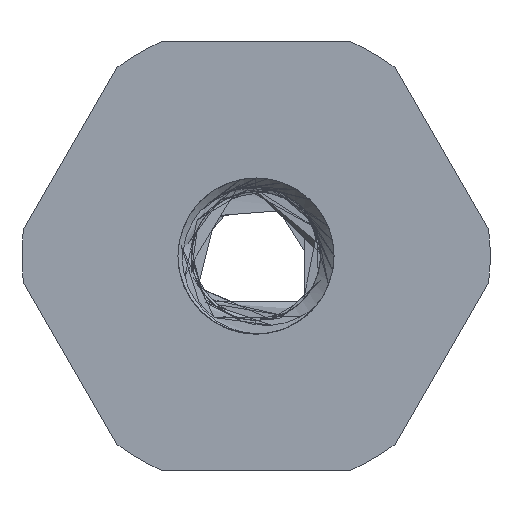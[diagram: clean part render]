
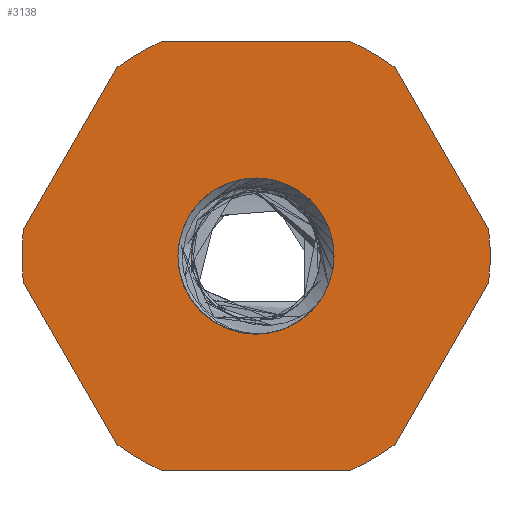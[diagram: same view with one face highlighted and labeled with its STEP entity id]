
A CAD part, front view. The second image highlights one B-rep face of the part: STEP entity #3138.
In plain terms, the highlighted planar face has unit normal (0, -1, 0).
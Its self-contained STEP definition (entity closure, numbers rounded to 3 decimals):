
#46 = VECTOR ( 'NONE', #6752, 1000. ) ;
#163 = CARTESIAN_POINT ( 'NONE',  ( 0., 0., -2. ) ) ;
#273 = DIRECTION ( 'NONE',  ( 0., 0., 1. ) ) ;
#355 = EDGE_CURVE ( 'NONE', #10574, #6095, #1039, .T. ) ;
#448 = CARTESIAN_POINT ( 'NONE',  ( 5.962, 0., 0.673 ) ) ;
#490 = CARTESIAN_POINT ( 'NONE',  ( -5.962, 0., 0.673 ) ) ;
#637 = EDGE_CURVE ( 'NONE', #1205, #4209, #5770, .T. ) ;
#647 = EDGE_CURVE ( 'NONE', #5701, #10574, #12279, .T. ) ;
#652 = ORIENTED_EDGE ( 'NONE', *, *, #2360, .F. ) ;
#680 = ORIENTED_EDGE ( 'NONE', *, *, #2428, .F. ) ;
#719 = VERTEX_POINT ( 'NONE', #6832 ) ;
#866 = CARTESIAN_POINT ( 'NONE',  ( 0., 0., 2. ) ) ;
#1039 = LINE ( 'NONE', #9866, #8047 ) ;
#1099 = LINE ( 'NONE', #9708, #2603 ) ;
#1144 = DIRECTION ( 'NONE',  ( 0., 0., 1. ) ) ;
#1184 = CARTESIAN_POINT ( 'NONE',  ( 0., 0., 0. ) ) ;
#1205 = VERTEX_POINT ( 'NONE', #866 ) ;
#1244 = ORIENTED_EDGE ( 'NONE', *, *, #637, .T. ) ;
#1266 = DIRECTION ( 'NONE',  ( 0., 1., 0. ) ) ;
#1343 = EDGE_CURVE ( 'NONE', #11026, #6611, #7389, .T. ) ;
#1391 = DIRECTION ( 'NONE',  ( -0.5, 0., -0.866 ) ) ;
#1836 = AXIS2_PLACEMENT_3D ( 'NONE', #9389, #11297, #5647 ) ;
#1892 = ORIENTED_EDGE ( 'NONE', *, *, #7066, .F. ) ;
#2003 = CARTESIAN_POINT ( 'NONE',  ( 0., 0., 5.5 ) ) ;
#2360 = EDGE_CURVE ( 'NONE', #11136, #719, #6198, .T. ) ;
#2373 = CARTESIAN_POINT ( 'NONE',  ( 0., 0., 0. ) ) ;
#2410 = DIRECTION ( 'NONE',  ( 0., 0., 1. ) ) ;
#2428 = EDGE_CURVE ( 'NONE', #2630, #5630, #12100, .T. ) ;
#2558 = ORIENTED_EDGE ( 'NONE', *, *, #10446, .T. ) ;
#2583 = AXIS2_PLACEMENT_3D ( 'NONE', #3303, #1266, #7930 ) ;
#2603 = VECTOR ( 'NONE', #4007, 1000. ) ;
#2630 = VERTEX_POINT ( 'NONE', #3518 ) ;
#2693 = CARTESIAN_POINT ( 'NONE',  ( 4.763, 0., 2.75 ) ) ;
#3032 = EDGE_CURVE ( 'NONE', #5630, #11136, #11400, .T. ) ;
#3065 = VERTEX_POINT ( 'NONE', #5645 ) ;
#3138 = ADVANCED_FACE ( 'NONE', ( #4137, #8596 ), #7560, .F. ) ;
#3162 = CARTESIAN_POINT ( 'NONE',  ( 0., 0., -5.5 ) ) ;
#3185 = DIRECTION ( 'NONE',  ( 0., 1., 0. ) ) ;
#3197 = ORIENTED_EDGE ( 'NONE', *, *, #355, .F. ) ;
#3271 = AXIS2_PLACEMENT_3D ( 'NONE', #9713, #3185, #4140 ) ;
#3303 = CARTESIAN_POINT ( 'NONE',  ( 0., 0., 0. ) ) ;
#3333 = EDGE_CURVE ( 'NONE', #719, #3065, #12121, .T. ) ;
#3423 = CARTESIAN_POINT ( 'NONE',  ( 0., 0., 0. ) ) ;
#3518 = CARTESIAN_POINT ( 'NONE',  ( 5.962, 0., -0.673 ) ) ;
#3702 = AXIS2_PLACEMENT_3D ( 'NONE', #3944, #4729, #11363 ) ;
#3706 = EDGE_CURVE ( 'NONE', #6989, #2630, #6800, .T. ) ;
#3944 = CARTESIAN_POINT ( 'NONE',  ( 0., 0., 0. ) ) ;
#4007 = DIRECTION ( 'NONE',  ( -0.5, 0., 0.866 ) ) ;
#4064 = ORIENTED_EDGE ( 'NONE', *, *, #3706, .F. ) ;
#4117 = DIRECTION ( 'NONE',  ( -1., 0., 0. ) ) ;
#4130 = CARTESIAN_POINT ( 'NONE',  ( -3.564, 0., 4.827 ) ) ;
#4137 = FACE_BOUND ( 'NONE', #9798, .T. ) ;
#4140 = DIRECTION ( 'NONE',  ( 0., 0., 1. ) ) ;
#4150 = ORIENTED_EDGE ( 'NONE', *, *, #4526, .F. ) ;
#4209 = VERTEX_POINT ( 'NONE', #8379 ) ;
#4210 = LINE ( 'NONE', #2693, #7809 ) ;
#4436 = VERTEX_POINT ( 'NONE', #5767 ) ;
#4526 = EDGE_CURVE ( 'NONE', #3065, #5701, #1099, .T. ) ;
#4729 = DIRECTION ( 'NONE',  ( 0., 1., 0. ) ) ;
#4974 = CARTESIAN_POINT ( 'NONE',  ( 2.398, 0., 5.5 ) ) ;
#4998 = CARTESIAN_POINT ( 'NONE',  ( 0.239, 0., -1.986 ) ) ;
#5141 = CARTESIAN_POINT ( 'NONE',  ( 4.763, 0., -2.75 ) ) ;
#5150 = DIRECTION ( 'NONE',  ( 0.5, 0., 0.866 ) ) ;
#5194 = DIRECTION ( 'NONE',  ( 0., 1., 0. ) ) ;
#5275 = ORIENTED_EDGE ( 'NONE', *, *, #11422, .F. ) ;
#5329 = ORIENTED_EDGE ( 'NONE', *, *, #9563, .T. ) ;
#5406 = CARTESIAN_POINT ( 'NONE',  ( -5.962, 0., -0.673 ) ) ;
#5630 = VERTEX_POINT ( 'NONE', #8159 ) ;
#5645 = CARTESIAN_POINT ( 'NONE',  ( -3.564, 0., -4.827 ) ) ;
#5647 = DIRECTION ( 'NONE',  ( 0., 0., 1. ) ) ;
#5701 = VERTEX_POINT ( 'NONE', #5406 ) ;
#5757 = VECTOR ( 'NONE', #4117, 1000. ) ;
#5767 = CARTESIAN_POINT ( 'NONE',  ( 3.564, 0., 4.827 ) ) ;
#5770 = CIRCLE ( 'NONE', #3702, 2. ) ;
#5913 = DIRECTION ( 'NONE',  ( 0., 0., 1. ) ) ;
#5995 = CARTESIAN_POINT ( 'NONE',  ( 0., 0., 0. ) ) ;
#6095 = VERTEX_POINT ( 'NONE', #4130 ) ;
#6198 = LINE ( 'NONE', #3162, #5757 ) ;
#6306 = EDGE_CURVE ( 'NONE', #4436, #6989, #4210, .T. ) ;
#6344 = AXIS2_PLACEMENT_3D ( 'NONE', #3423, #11031, #11957 ) ;
#6548 = ORIENTED_EDGE ( 'NONE', *, *, #6306, .F. ) ;
#6559 = DIRECTION ( 'NONE',  ( 0., 0., 1. ) ) ;
#6611 = VERTEX_POINT ( 'NONE', #163 ) ;
#6671 = AXIS2_PLACEMENT_3D ( 'NONE', #5995, #11702, #1144 ) ;
#6752 = DIRECTION ( 'NONE',  ( 1., 0., 0. ) ) ;
#6800 = CIRCLE ( 'NONE', #11981, 6. ) ;
#6832 = CARTESIAN_POINT ( 'NONE',  ( -2.398, 0., -5.5 ) ) ;
#6963 = ORIENTED_EDGE ( 'NONE', *, *, #3333, .F. ) ;
#6981 = CARTESIAN_POINT ( 'NONE',  ( 2.398, 0., -5.5 ) ) ;
#6989 = VERTEX_POINT ( 'NONE', #448 ) ;
#7066 = EDGE_CURVE ( 'NONE', #6095, #8441, #11924, .T. ) ;
#7094 = VECTOR ( 'NONE', #1391, 1000. ) ;
#7107 = CARTESIAN_POINT ( 'NONE',  ( -2.398, 0., 5.5 ) ) ;
#7119 = CIRCLE ( 'NONE', #7706, 6. ) ;
#7389 = CIRCLE ( 'NONE', #1836, 2. ) ;
#7460 = CARTESIAN_POINT ( 'NONE',  ( 0., 0., 0. ) ) ;
#7560 = PLANE ( 'NONE',  #8763 ) ;
#7599 = DIRECTION ( 'NONE',  ( 0., 1., 0. ) ) ;
#7656 = ORIENTED_EDGE ( 'NONE', *, *, #8344, .F. ) ;
#7706 = AXIS2_PLACEMENT_3D ( 'NONE', #9689, #7778, #273 ) ;
#7778 = DIRECTION ( 'NONE',  ( 0., 1., 0. ) ) ;
#7809 = VECTOR ( 'NONE', #10188, 1000. ) ;
#7930 = DIRECTION ( 'NONE',  ( 0., 0., 1. ) ) ;
#8047 = VECTOR ( 'NONE', #5150, 1000. ) ;
#8124 = CIRCLE ( 'NONE', #2583, 2. ) ;
#8159 = CARTESIAN_POINT ( 'NONE',  ( 3.564, 0., -4.827 ) ) ;
#8309 = VERTEX_POINT ( 'NONE', #4974 ) ;
#8344 = EDGE_CURVE ( 'NONE', #8309, #4436, #7119, .T. ) ;
#8379 = CARTESIAN_POINT ( 'NONE',  ( 1.553, 0., -1.261 ) ) ;
#8441 = VERTEX_POINT ( 'NONE', #7107 ) ;
#8596 = FACE_OUTER_BOUND ( 'NONE', #9115, .T. ) ;
#8763 = AXIS2_PLACEMENT_3D ( 'NONE', #9482, #11345, #10206 ) ;
#8868 = ORIENTED_EDGE ( 'NONE', *, *, #647, .F. ) ;
#9115 = EDGE_LOOP ( 'NONE', ( #5275, #1892, #3197, #8868, #4150, #6963, #652, #9606, #680, #4064, #6548, #7656 ) ) ;
#9254 = CIRCLE ( 'NONE', #10770, 2. ) ;
#9389 = CARTESIAN_POINT ( 'NONE',  ( 0., 0., 0. ) ) ;
#9482 = CARTESIAN_POINT ( 'NONE',  ( 0., 0., 0. ) ) ;
#9563 = EDGE_CURVE ( 'NONE', #4209, #11026, #8124, .T. ) ;
#9606 = ORIENTED_EDGE ( 'NONE', *, *, #3032, .F. ) ;
#9689 = CARTESIAN_POINT ( 'NONE',  ( 0., 0., 0. ) ) ;
#9708 = CARTESIAN_POINT ( 'NONE',  ( -4.763, 0., -2.75 ) ) ;
#9713 = CARTESIAN_POINT ( 'NONE',  ( 0., 0., 0. ) ) ;
#9798 = EDGE_LOOP ( 'NONE', ( #5329, #11834, #2558, #1244 ) ) ;
#9866 = CARTESIAN_POINT ( 'NONE',  ( -4.763, 0., 2.75 ) ) ;
#10188 = DIRECTION ( 'NONE',  ( 0.5, 0., -0.866 ) ) ;
#10206 = DIRECTION ( 'NONE',  ( 0., 0., 1. ) ) ;
#10446 = EDGE_CURVE ( 'NONE', #6611, #1205, #9254, .T. ) ;
#10574 = VERTEX_POINT ( 'NONE', #490 ) ;
#10770 = AXIS2_PLACEMENT_3D ( 'NONE', #1184, #11609, #5913 ) ;
#11026 = VERTEX_POINT ( 'NONE', #4998 ) ;
#11031 = DIRECTION ( 'NONE',  ( 0., 1., 0. ) ) ;
#11136 = VERTEX_POINT ( 'NONE', #6981 ) ;
#11297 = DIRECTION ( 'NONE',  ( 0., 1., 0. ) ) ;
#11345 = DIRECTION ( 'NONE',  ( 0., 1., 0. ) ) ;
#11363 = DIRECTION ( 'NONE',  ( 0., 0., 1. ) ) ;
#11400 = CIRCLE ( 'NONE', #11535, 6. ) ;
#11422 = EDGE_CURVE ( 'NONE', #8441, #8309, #11642, .T. ) ;
#11535 = AXIS2_PLACEMENT_3D ( 'NONE', #7460, #7599, #6559 ) ;
#11609 = DIRECTION ( 'NONE',  ( 0., 1., 0. ) ) ;
#11642 = LINE ( 'NONE', #2003, #46 ) ;
#11702 = DIRECTION ( 'NONE',  ( 0., 1., 0. ) ) ;
#11834 = ORIENTED_EDGE ( 'NONE', *, *, #1343, .T. ) ;
#11924 = CIRCLE ( 'NONE', #6344, 6. ) ;
#11957 = DIRECTION ( 'NONE',  ( 0., 0., 1. ) ) ;
#11981 = AXIS2_PLACEMENT_3D ( 'NONE', #2373, #5194, #2410 ) ;
#12100 = LINE ( 'NONE', #5141, #7094 ) ;
#12121 = CIRCLE ( 'NONE', #3271, 6. ) ;
#12279 = CIRCLE ( 'NONE', #6671, 6. ) ;
